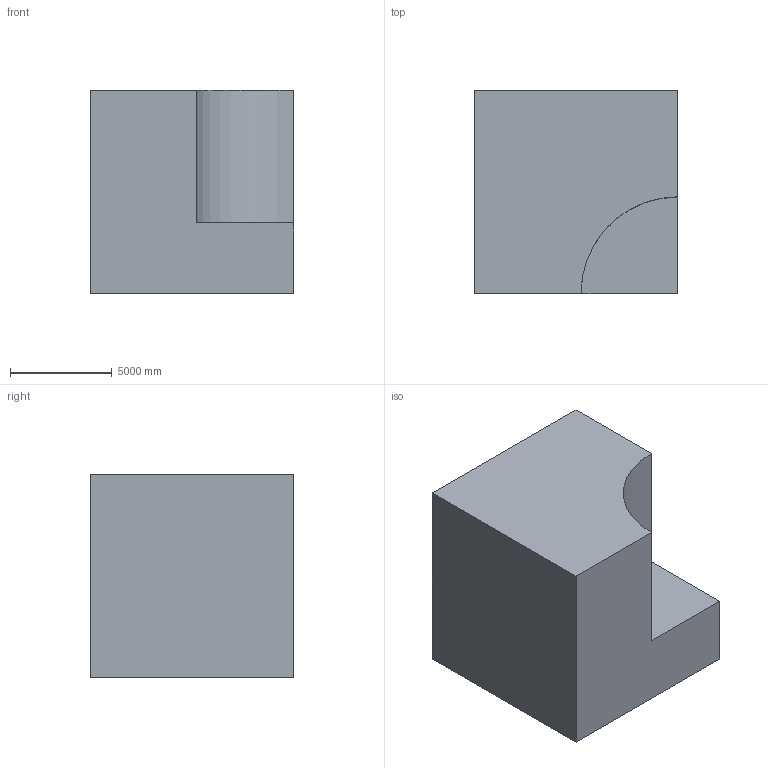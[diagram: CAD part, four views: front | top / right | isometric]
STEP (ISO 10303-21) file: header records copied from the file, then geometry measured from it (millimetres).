
FILE_DESCRIPTION (( 'STEP AP203' ), '1' );
FILE_NAME ('1097.STEP', '2022-08-18T12:44:55', ( 'user' ), ( '' ), 'SwSTEP 2.0', 'SolidWorks 2021', '' );
FILE_SCHEMA (( 'CONFIG_CONTROL_DESIGN' ));
Length unit declared in the file: centimetre
Products named in the file (1): 1097
Bounding box: 10000 x 10000 x 10000 mm (x, y, z)
Volume: 707183039288.6 mm3; surface area: 720451309.7 mm2
Topology: 1 solids, 1 shells, 13 faces, 30 edges, 20 vertices
Faces by surface type: plane 12, cylinder 1
Entity records: 443 total; most frequent: CARTESIAN_POINT 64, DIRECTION 60, ORIENTED_EDGE 60, EDGE_CURVE 30, VECTOR 28, LINE 28, VERTEX_POINT 20, AXIS2_PLACEMENT_3D 16
